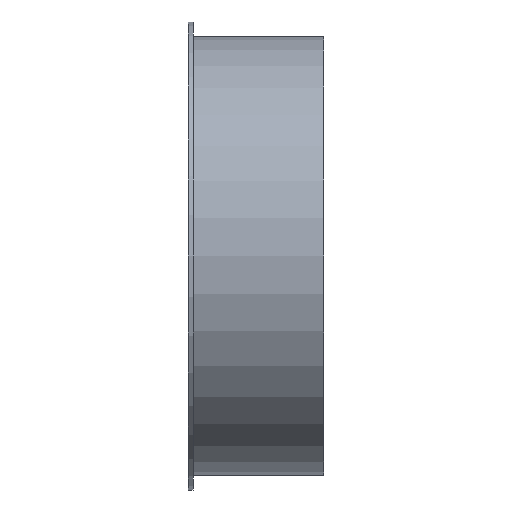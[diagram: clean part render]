
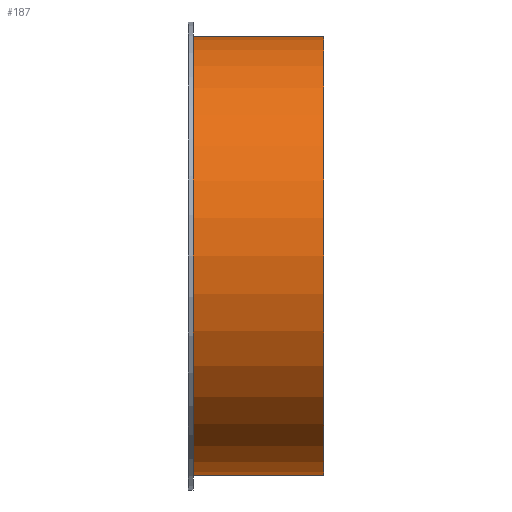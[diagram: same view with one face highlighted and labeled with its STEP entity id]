
A CAD part, front view. The second image highlights one B-rep face of the part: STEP entity #187.
In plain terms, the highlighted cylindrical face has radius 89 mm (diameter 178 mm), a full revolution.
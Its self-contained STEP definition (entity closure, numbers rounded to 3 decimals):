
#112=CARTESIAN_POINT('',(-15.,0.,0.0));
#113=VERTEX_POINT('',#112);
#114=CARTESIAN_POINT('',(-15.,89.,0.0));
#115=DIRECTION('',(-1.0,0.0,0.0));
#116=DIRECTION('',(0.0,-1.0,0.0));
#117=AXIS2_PLACEMENT_3D('',#114,#115,#116);
#118=CIRCLE('',#117,89.);
#119=EDGE_CURVE('',#113,#113,#118,.T.);
#161=CARTESIAN_POINT('',(38.0,0.,0.0));
#162=VERTEX_POINT('',#161);
#163=CARTESIAN_POINT('',(38.,89.,0.0));
#164=DIRECTION('',(-1.0,0.0,0.0));
#165=DIRECTION('',(0.0,-1.0,0.0));
#166=AXIS2_PLACEMENT_3D('',#163,#164,#165);
#167=CIRCLE('',#166,89.);
#168=EDGE_CURVE('',#162,#162,#167,.T.);
#176=CARTESIAN_POINT('',(11.5,89.0,0.0));
#177=DIRECTION('',(-1.0,0.,0.0));
#178=DIRECTION('',(0.0,-1.0,0.0));
#179=AXIS2_PLACEMENT_3D('',#176,#177,#178);
#180=CYLINDRICAL_SURFACE('',#179,89.0);
#181=ORIENTED_EDGE('',*,*,#119,.F.);
#182=EDGE_LOOP('',(#181));
#183=FACE_OUTER_BOUND('',#182,.T.);
#184=ORIENTED_EDGE('',*,*,#168,.T.);
#185=EDGE_LOOP('',(#184));
#186=FACE_BOUND('',#185,.T.);
#187=ADVANCED_FACE('',(#183,#186),#180,.T.);
